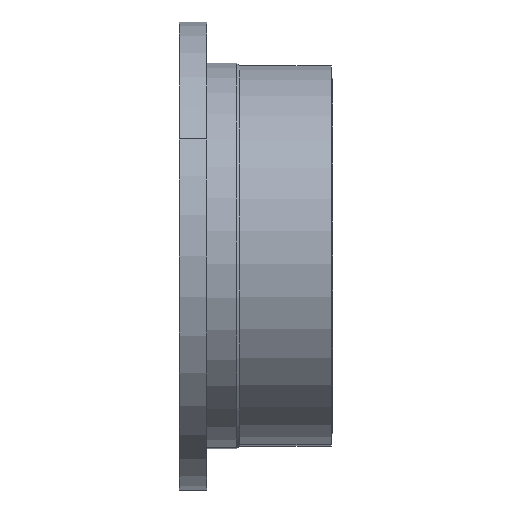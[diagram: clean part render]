
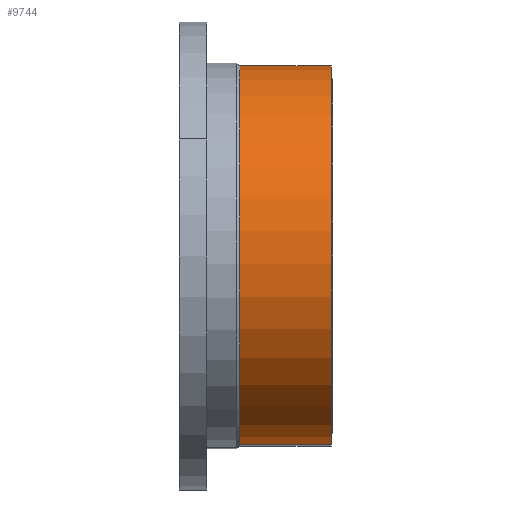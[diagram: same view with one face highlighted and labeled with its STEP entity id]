
A CAD part, left-side view. The second image highlights one B-rep face of the part: STEP entity #9744.
In plain terms, the highlighted cylindrical face has radius 69.5 mm (diameter 139 mm), a partial arc.
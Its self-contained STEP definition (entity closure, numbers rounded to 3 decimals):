
#42 = ORIENTED_EDGE ( 'NONE', *, *, #6423, .T. ) ;
#48 = EDGE_CURVE ( 'NONE', #1213, #8637, #4069, .T. ) ;
#106 = ORIENTED_EDGE ( 'NONE', *, *, #48, .F. ) ;
#572 = CARTESIAN_POINT ( 'NONE',  ( -9.072, -46.5, -68.905 ) ) ;
#798 = EDGE_LOOP ( 'NONE', ( #42, #5803, #106, #10369 ) ) ;
#1213 = VERTEX_POINT ( 'NONE', #1540 ) ;
#1540 = CARTESIAN_POINT ( 'NONE',  ( 9.072, -46.5, 68.905 ) ) ;
#1676 = VECTOR ( 'NONE', #4584, 1000. ) ;
#1964 = AXIS2_PLACEMENT_3D ( 'NONE', #5709, #7154, #6446 ) ;
#2133 = AXIS2_PLACEMENT_3D ( 'NONE', #7143, #8578, #9588 ) ;
#2236 = LINE ( 'NONE', #4533, #1676 ) ;
#3066 = LINE ( 'NONE', #5731, #9245 ) ;
#3113 = DIRECTION ( 'NONE',  ( 0., -1., 0. ) ) ;
#3224 = VERTEX_POINT ( 'NONE', #10167 ) ;
#4054 = FACE_OUTER_BOUND ( 'NONE', #798, .T. ) ;
#4069 = CIRCLE ( 'NONE', #8997, 69.5 ) ;
#4533 = CARTESIAN_POINT ( 'NONE',  ( 9.072, -68.036, 68.905 ) ) ;
#4584 = DIRECTION ( 'NONE',  ( 0., -1., 0. ) ) ;
#4754 = CYLINDRICAL_SURFACE ( 'NONE', #1964, 69.5 ) ;
#4800 = EDGE_CURVE ( 'NONE', #7047, #1213, #2236, .T. ) ;
#4838 = DIRECTION ( 'NONE',  ( 0.131, 0., 0.991 ) ) ;
#5202 = CIRCLE ( 'NONE', #2133, 69.5 ) ;
#5709 = CARTESIAN_POINT ( 'NONE',  ( 0., -68.036, 0. ) ) ;
#5731 = CARTESIAN_POINT ( 'NONE',  ( -9.072, -68.036, -68.905 ) ) ;
#5803 = ORIENTED_EDGE ( 'NONE', *, *, #7986, .T. ) ;
#6335 = CARTESIAN_POINT ( 'NONE',  ( 0., -46.5, 0. ) ) ;
#6385 = DIRECTION ( 'NONE',  ( 0., -1., 0. ) ) ;
#6423 = EDGE_CURVE ( 'NONE', #7047, #3224, #5202, .T. ) ;
#6446 = DIRECTION ( 'NONE',  ( 0.131, 0., 0.991 ) ) ;
#7047 = VERTEX_POINT ( 'NONE', #9068 ) ;
#7143 = CARTESIAN_POINT ( 'NONE',  ( 0., -13., 0. ) ) ;
#7154 = DIRECTION ( 'NONE',  ( 0., -1., 0. ) ) ;
#7986 = EDGE_CURVE ( 'NONE', #3224, #8637, #3066, .T. ) ;
#8578 = DIRECTION ( 'NONE',  ( 0., -1., 0. ) ) ;
#8637 = VERTEX_POINT ( 'NONE', #572 ) ;
#8997 = AXIS2_PLACEMENT_3D ( 'NONE', #6335, #6385, #4838 ) ;
#9068 = CARTESIAN_POINT ( 'NONE',  ( 9.072, -13., 68.905 ) ) ;
#9245 = VECTOR ( 'NONE', #3113, 1000. ) ;
#9588 = DIRECTION ( 'NONE',  ( -0.131, 0., -0.991 ) ) ;
#9744 = ADVANCED_FACE ( 'NONE', ( #4054 ), #4754, .T. ) ;
#10167 = CARTESIAN_POINT ( 'NONE',  ( -9.072, -13., -68.905 ) ) ;
#10369 = ORIENTED_EDGE ( 'NONE', *, *, #4800, .F. ) ;
